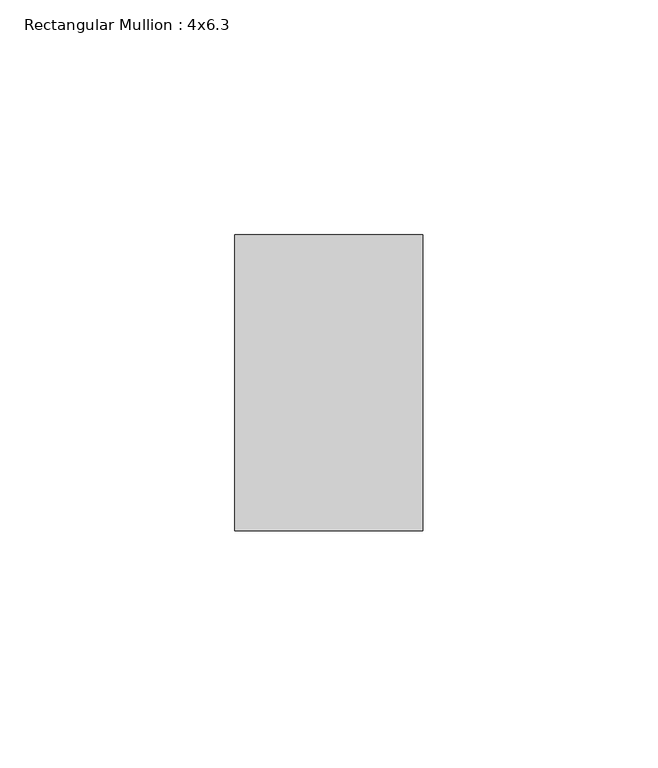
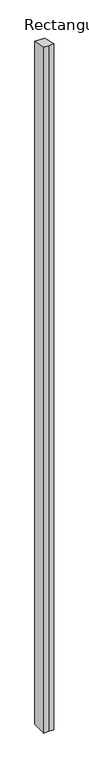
"""IFC4 building model written with IfcOpenShell, lengths in millimetres: member geometry, Rectangular Mullion : 4x6.3."""

from ifc_helpers import new_model, si_unit, origin, place, context, project, spatial, faceted_brep, source, transform, mapped, element, save


def rectangular_mullion_4x6_3_e20d5244(model_context):
    return source(origin(), model_context, "Body", "Brep", [
        faceted_brep([(-20.0, 20.0, -2922.7884839), (-20.0, 83.0, -2922.7884839), (20.0, 83.0, -2922.7884839), (20.0, 20.0, -2922.7884839), (0.0, 20.0, -2922.7884839), (0.0, 20.0, -4.3995804), (-20.0, 20.0, -4.3995804), (20.0, 20.0, -4.3995804), (20.0, 83.0, -18.2582585), (-20.0, 83.0, -18.2582585)], [[[0, 1, 2, 3, 4]], [[5, 6, 0, 4]], [[7, 5, 4, 3]], [[8, 7, 3, 2]], [[9, 8, 2, 1]], [[6, 9, 1, 0]], [[6, 5, 7, 8, 9]]]),
    ])


if __name__ == "__main__":
    model = new_model("IFC4")
    model_context = context("Model", 3, world=origin())
    ifc_project = project(units=[si_unit("LENGTHUNIT", "METRE", prefix="MILLI")], contexts=[model_context])
    site = spatial("IfcSite", under=ifc_project)
    building = spatial("IfcBuilding", under=site)
    placement = place(None, origin())
    rectangular_mullion_4x6_3_shape = rectangular_mullion_4x6_3_e20d5244(model_context)
    element("IfcMember", 1, ObjectType="Rectangular Mullion : 4x6.3", at=placement, inside=building, context=model_context, shape_type="MappedRepresentation", body=[
        mapped(rectangular_mullion_4x6_3_shape, transform((0.0, 0.0, 0.0), x_axis=(1.0, 0.0, 0.0), y_axis=(0.0, 1.0, 0.0), z_axis=(0.0, 0.0, 1.0))),
    ])
    save(model, "model.ifc")
